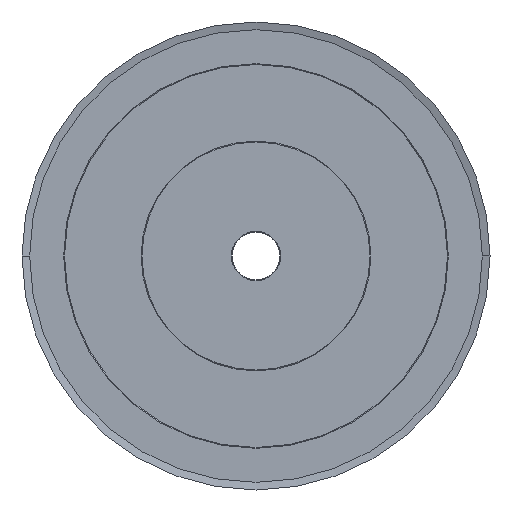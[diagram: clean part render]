
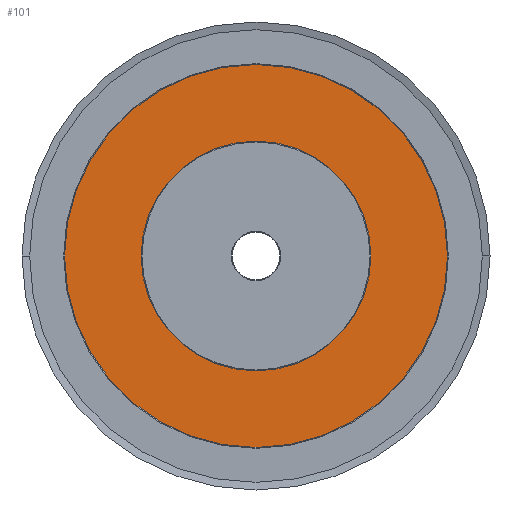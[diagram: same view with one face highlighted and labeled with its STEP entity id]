
A CAD part, left-side view. The second image highlights one B-rep face of the part: STEP entity #101.
In plain terms, the highlighted planar face has unit normal (-1, 0, 0).
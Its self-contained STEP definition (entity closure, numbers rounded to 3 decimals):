
#101=ADVANCED_FACE('',(#472,#473),#474,.T.);
#472=FACE_BOUND('',#1164,.T.);
#473=FACE_OUTER_BOUND('',#1165,.T.);
#474=PLANE('',#1166);
#1164=EDGE_LOOP('',(#1992,#1993));
#1165=EDGE_LOOP('',(#1994,#1995,#1996));
#1166=AXIS2_PLACEMENT_3D('',#1997,#1998,#1999);
#1992=ORIENTED_EDGE('',*,*,#4873,.T.);
#1993=ORIENTED_EDGE('',*,*,#4858,.T.);
#1994=ORIENTED_EDGE('',*,*,#4879,.F.);
#1995=ORIENTED_EDGE('',*,*,#4880,.F.);
#1996=ORIENTED_EDGE('',*,*,#4827,.F.);
#1997=CARTESIAN_POINT('',(28.0,0.0,0.0));
#1998=DIRECTION('',(-1.0,0.0,0.0));
#1999=DIRECTION('',(0.0,0.0,1.0));
#4827=EDGE_CURVE('',#5830,#5833,#5834,.T.);
#4858=EDGE_CURVE('',#5885,#5888,#5890,.T.);
#4873=EDGE_CURVE('',#5888,#5885,#5913,.T.);
#4879=EDGE_CURVE('',#5919,#5830,#5920,.T.);
#4880=EDGE_CURVE('',#5833,#5919,#5921,.T.);
#5830=VERTEX_POINT('',#7484);
#5833=VERTEX_POINT('',#7488);
#5834=CIRCLE('',#7489,112.5);
#5885=VERTEX_POINT('',#7553);
#5888=VERTEX_POINT('',#7557);
#5890=CIRCLE('',#7560,67.5);
#5913=CIRCLE('',#7589,67.5);
#5919=VERTEX_POINT('',#7595);
#5920=CIRCLE('',#7596,112.5);
#5921=CIRCLE('',#7597,112.5);
#7484=CARTESIAN_POINT('',(28.0,112.5,0.));
#7488=CARTESIAN_POINT('',(28.0,-112.5,0.));
#7489=AXIS2_PLACEMENT_3D('',#9453,#9454,#9455);
#7553=CARTESIAN_POINT('',(28.0,0.,-67.5));
#7557=CARTESIAN_POINT('',(28.0,0.,67.5));
#7560=AXIS2_PLACEMENT_3D('',#9516,#9517,#9518);
#7589=AXIS2_PLACEMENT_3D('',#9549,#9550,#9551);
#7595=CARTESIAN_POINT('',(28.0,0.0,-112.5));
#7596=AXIS2_PLACEMENT_3D('',#9567,#9568,#9569);
#7597=AXIS2_PLACEMENT_3D('',#9570,#9571,#9572);
#9453=CARTESIAN_POINT('',(28.0,0.0,0.0));
#9454=DIRECTION('',(1.0,0.0,0.0));
#9455=DIRECTION('',(0.0,1.0,0.0));
#9516=CARTESIAN_POINT('',(28.0,0.0,0.0));
#9517=DIRECTION('',(1.0,0.0,0.0));
#9518=DIRECTION('',(0.0,0.0,-1.0));
#9549=CARTESIAN_POINT('',(28.0,0.0,0.0));
#9550=DIRECTION('',(1.0,0.0,0.0));
#9551=DIRECTION('',(0.0,0.0,-1.0));
#9567=CARTESIAN_POINT('',(28.0,0.0,0.0));
#9568=DIRECTION('',(1.0,0.0,0.0));
#9569=DIRECTION('',(0.0,1.0,0.0));
#9570=CARTESIAN_POINT('',(28.0,0.0,0.0));
#9571=DIRECTION('',(1.0,0.0,0.0));
#9572=DIRECTION('',(0.0,1.0,0.0));
